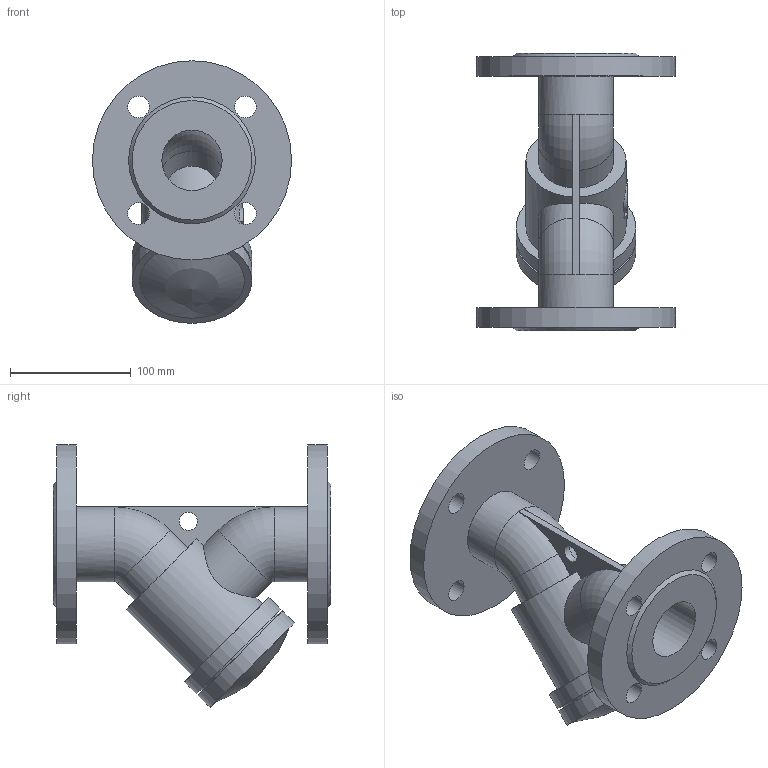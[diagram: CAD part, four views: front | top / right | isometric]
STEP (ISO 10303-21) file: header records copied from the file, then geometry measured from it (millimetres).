
FILE_DESCRIPTION(('STEP AP203'), '1');
FILE_NAME('Ôèëüòð ñåò÷àòûé ôëàíöåâûé 021Y.Z DN50 PN10_PN16', '', ('UNSPECIFIED'), ('UNSPECIFIED'), 'ASCON STEP Converter 1.6', 'ASCON Math Kernel', '');
FILE_SCHEMA(('CONFIG_CONTROL_DESIGN'));
Length unit declared in the file: millimetre
Bounding box: 165 x 230 x 217.5 mm (x, y, z)
Volume: 1473469.5 mm3; surface area: 206527.7 mm2
Topology: 1 solids, 1 shells, 67 faces, 147 edges, 94 vertices
Faces by surface type: cylinder 31, plane 29, torus 4, cone 2, sphere 1
Full cylindrical faces by diameter (mm): 15 x1, 18 x8, 50 x4, 62 x2, 83 x1, 89 x1, 99 x2, 165 x2
Entity records: 3232 total; most frequent: CARTESIAN_POINT 1211, DIRECTION 313, ORIENTED_EDGE 240, AXIS2_PLACEMENT_3D 136, EDGE_LOOP 123, EDGE_CURVE 120, VERTEX_POINT 93, FACE_BOUND 75
